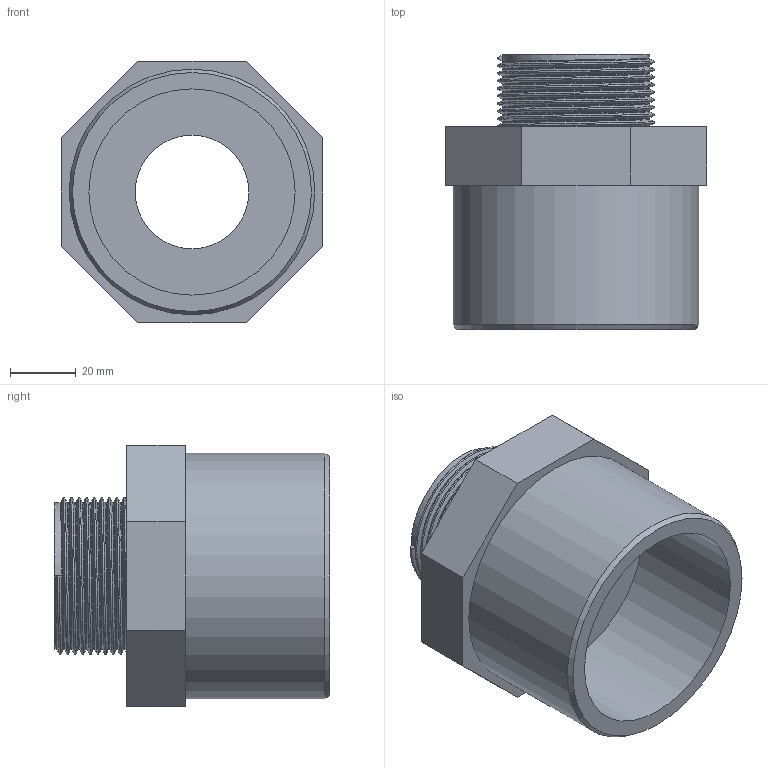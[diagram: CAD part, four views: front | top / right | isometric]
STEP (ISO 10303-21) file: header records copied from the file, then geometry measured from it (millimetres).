
FILE_DESCRIPTION(/* description */ ('PVC adattatore incollaggio-filettatura BSP maschio'),/* implementation_level */ '2;1');
FILE_NAME(/* name */ 'C:\Users\POLYPIPE\Desktop\DATASET INVENTOR\LIBRERIA EFFAST\RACCORDI 3DxWEB\RGR\3D_RGRAMG\3D_RGRAMG063F.stp',/* time_stamp */ '2018-01-19T17:36:32+01:00',/* author */ ('POLYPIPE'),/* organization */ ('Polypipe Italia s.r.l.'),/* preprocessor_version */ 'ST-DEVELOPER v16.1',/* originating_system */ 'Autodesk Inventor 2016',/* authorisation */ '');
FILE_SCHEMA (('CONFIG_CONTROL_DESIGN'));
Length unit declared in the file: millimetre
Products named in the file (1): 3D_RGRAMG
Bounding box: 80 x 84 x 80 mm (x, y, z)
Volume: 162962.1 mm3; surface area: 41566.9 mm2
Topology: 1 solids, 1 shells, 26 faces, 56 edges, 36 vertices
Faces by surface type: plane 15, cylinder 5, bspline 5, cone 1
Full cylindrical faces by diameter (mm): 34.7 x1, 35.7 x1, 44.845 x1, 63 x1, 75 x1
Entity records: 4147 total; most frequent: CARTESIAN_POINT 3594, ORIENTED_EDGE 102, DIRECTION 97, EDGE_CURVE 51, EDGE_LOOP 37, VERTEX_POINT 36, AXIS2_PLACEMENT_3D 35, LINE 27
